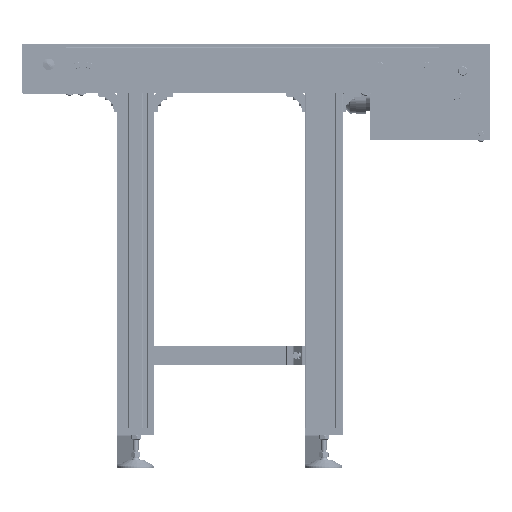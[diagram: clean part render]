
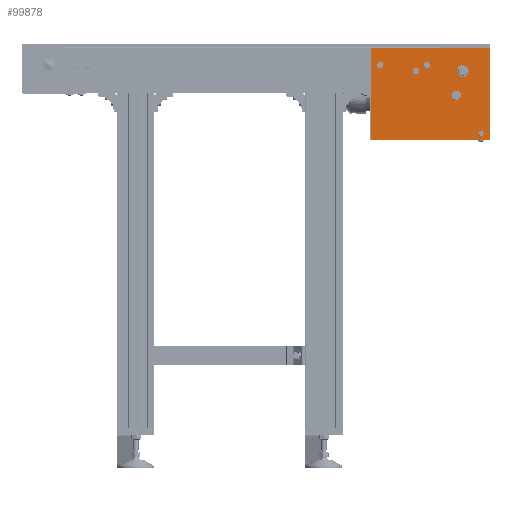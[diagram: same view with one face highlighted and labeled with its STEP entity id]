
A CAD part, front view. The second image highlights one B-rep face of the part: STEP entity #99878.
In plain terms, the highlighted planar face has unit normal (0, -1, 0).
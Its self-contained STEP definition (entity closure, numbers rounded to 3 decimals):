
#2345=FACE_BOUND('',#17959,.T.);
#2346=FACE_BOUND('',#17960,.T.);
#2347=FACE_BOUND('',#17961,.T.);
#2348=FACE_BOUND('',#17962,.T.);
#2349=FACE_BOUND('',#17963,.T.);
#2350=FACE_BOUND('',#17964,.T.);
#6759=CIRCLE('',#107623,10.);
#6789=CIRCLE('',#107690,6.5);
#6825=CIRCLE('',#107779,5.);
#6894=CIRCLE('',#107929,10.);
#6902=CIRCLE('',#107953,6.5);
#6903=CIRCLE('',#107954,6.5);
#11903=FACE_OUTER_BOUND('',#17958,.T.);
#17958=EDGE_LOOP('',(#79987,#79988,#79989,#79990));
#17959=EDGE_LOOP('',(#79991));
#17960=EDGE_LOOP('',(#79992));
#17961=EDGE_LOOP('',(#79993));
#17962=EDGE_LOOP('',(#79994));
#17963=EDGE_LOOP('',(#79995));
#17964=EDGE_LOOP('',(#79996));
#26936=LINE('',#162570,#35758);
#26950=LINE('',#162681,#35772);
#26951=LINE('',#162683,#35773);
#26952=LINE('',#162684,#35774);
#35758=VECTOR('',#130747,255.);
#35772=VECTOR('',#130831,195.);
#35773=VECTOR('',#130832,195.);
#35774=VECTOR('',#130833,255.);
#44133=VERTEX_POINT('',#161733);
#44160=VERTEX_POINT('',#161830);
#44245=VERTEX_POINT('',#162138);
#44378=VERTEX_POINT('',#162567);
#44379=VERTEX_POINT('',#162569);
#44385=VERTEX_POINT('',#162588);
#44405=VERTEX_POINT('',#162680);
#44406=VERTEX_POINT('',#162682);
#44407=VERTEX_POINT('',#162685);
#44408=VERTEX_POINT('',#162687);
#56487=EDGE_CURVE('',#44133,#44133,#6759,.T.);
#56520=EDGE_CURVE('',#44160,#44160,#6789,.T.);
#56642=EDGE_CURVE('',#44245,#44245,#6825,.T.);
#56840=EDGE_CURVE('',#44379,#44378,#26936,.T.);
#56847=EDGE_CURVE('',#44385,#44385,#6894,.T.);
#56879=EDGE_CURVE('',#44405,#44379,#26950,.T.);
#56880=EDGE_CURVE('',#44378,#44406,#26951,.T.);
#56881=EDGE_CURVE('',#44406,#44405,#26952,.T.);
#56882=EDGE_CURVE('',#44407,#44407,#6902,.T.);
#56883=EDGE_CURVE('',#44408,#44408,#6903,.T.);
#79987=ORIENTED_EDGE('',*,*,#56879,.T.);
#79988=ORIENTED_EDGE('',*,*,#56840,.T.);
#79989=ORIENTED_EDGE('',*,*,#56880,.T.);
#79990=ORIENTED_EDGE('',*,*,#56881,.T.);
#79991=ORIENTED_EDGE('',*,*,#56487,.T.);
#79992=ORIENTED_EDGE('',*,*,#56520,.T.);
#79993=ORIENTED_EDGE('',*,*,#56642,.T.);
#79994=ORIENTED_EDGE('',*,*,#56847,.T.);
#79995=ORIENTED_EDGE('',*,*,#56882,.T.);
#79996=ORIENTED_EDGE('',*,*,#56883,.T.);
#89912=PLANE('',#107952);
#99878=ADVANCED_FACE('',(#11903,#2345,#2346,#2347,#2348,#2349,#2350),#89912,
 .T.);
#107623=AXIS2_PLACEMENT_3D('',#161734,#129970,#129971);
#107690=AXIS2_PLACEMENT_3D('',#161831,#130107,#130108);
#107779=AXIS2_PLACEMENT_3D('',#162139,#130347,#130348);
#107929=AXIS2_PLACEMENT_3D('',#162589,#130771,#130772);
#107952=AXIS2_PLACEMENT_3D('',#162679,#130829,#130830);
#107953=AXIS2_PLACEMENT_3D('',#162686,#130834,#130835);
#107954=AXIS2_PLACEMENT_3D('',#162688,#130836,#130837);
#129970=DIRECTION('center_axis',(0.,1.,0.));
#129971=DIRECTION('ref_axis',(-0.747,0.,0.665));
#130107=DIRECTION('center_axis',(0.,1.,0.));
#130108=DIRECTION('ref_axis',(-1.,0.,0.));
#130347=DIRECTION('center_axis',(0.,1.,0.));
#130348=DIRECTION('ref_axis',(-1.,0.,0.));
#130747=DIRECTION('',(-1.,0.,0.));
#130771=DIRECTION('center_axis',(0.,1.,0.));
#130772=DIRECTION('ref_axis',(-0.369,0.,0.929));
#130829=DIRECTION('center_axis',(0.,-1.,0.));
#130830=DIRECTION('ref_axis',(1.,0.,0.));
#130831=DIRECTION('',(0.,0.,1.));
#130832=DIRECTION('',(0.,0.,-1.));
#130833=DIRECTION('',(1.,0.,0.));
#130834=DIRECTION('center_axis',(0.,1.,0.));
#130835=DIRECTION('ref_axis',(-1.,0.,0.));
#130836=DIRECTION('center_axis',(0.,1.,0.));
#130837=DIRECTION('ref_axis',(-1.,0.,0.));
#161733=CARTESIAN_POINT('',(949.467,-175.7,41.228));
#161734=CARTESIAN_POINT('Origin',(942.,-175.7,47.88));
#161830=CARTESIAN_POINT('',(835.5,-175.7,47.88));
#161831=CARTESIAN_POINT('Origin',(842.,-175.7,47.88));
#162138=CARTESIAN_POINT('',(976.,-175.7,-86.05));
#162139=CARTESIAN_POINT('Origin',(981.,-175.7,-86.05));
#162567=CARTESIAN_POINT('',(745.,-175.7,96.45));
#162569=CARTESIAN_POINT('',(1000.,-175.7,96.45));
#162570=CARTESIAN_POINT('',(872.5,-175.7,96.45));
#162588=CARTESIAN_POINT('',(924.31,-175.7,5.174));
#162589=CARTESIAN_POINT('Origin',(928.,-175.7,-4.12));
#162679=CARTESIAN_POINT('Origin',(872.5,-175.7,-1.05));
#162680=CARTESIAN_POINT('',(1000.,-175.7,-98.55));
#162681=CARTESIAN_POINT('',(1000.,-175.7,-1.05));
#162682=CARTESIAN_POINT('',(745.,-175.7,-98.55));
#162683=CARTESIAN_POINT('',(745.,-175.7,-1.05));
#162684=CARTESIAN_POINT('',(872.5,-175.7,-98.55));
#162685=CARTESIAN_POINT('',(758.5,-175.7,59.975));
#162686=CARTESIAN_POINT('Origin',(765.,-175.7,59.975));
#162687=CARTESIAN_POINT('',(858.5,-175.7,59.975));
#162688=CARTESIAN_POINT('Origin',(865.,-175.7,59.975));
